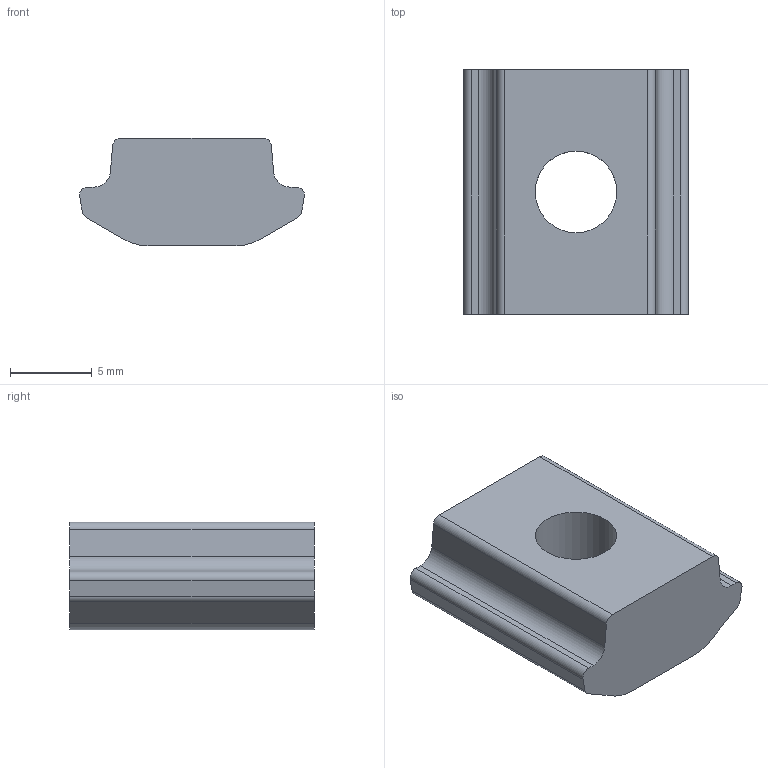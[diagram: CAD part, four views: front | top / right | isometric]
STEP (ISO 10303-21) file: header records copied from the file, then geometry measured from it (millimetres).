
FILE_DESCRIPTION(('STEP AP214'),'1');
FILE_NAME('NF40-M5.stp','2017-07-26T06:59:18',(' '),(' '),'Spatial InterOp 3D',' ',' ');
FILE_SCHEMA(('automotive_design'));
Length unit declared in the file: millimetre
Products named in the file (1): NF40-M5
Bounding box: 13.8 x 15 x 6.6 mm (x, y, z)
Volume: 958.4 mm3; surface area: 743.5 mm2
Topology: 1 solids, 1 shells, 23 faces, 63 edges, 42 vertices
Faces by surface type: plane 12, cylinder 11
Full cylindrical faces by diameter (mm): 5 x1
Entity records: 938 total; most frequent: DIRECTION 132, CARTESIAN_POINT 128, ORIENTED_EDGE 124, EDGE_CURVE 62, AXIS2_PLACEMENT_3D 46, VERTEX_POINT 42, LINE 40, VECTOR 40
